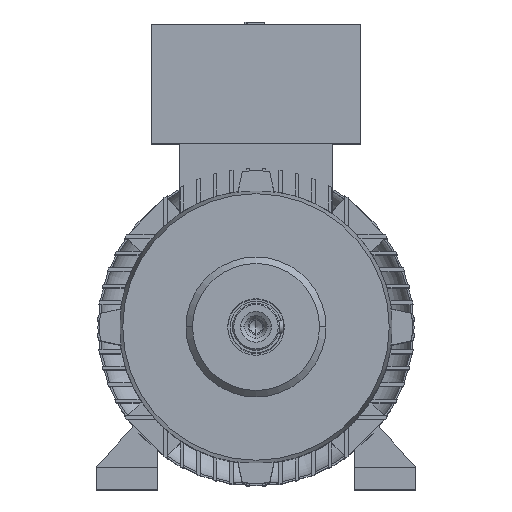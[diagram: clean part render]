
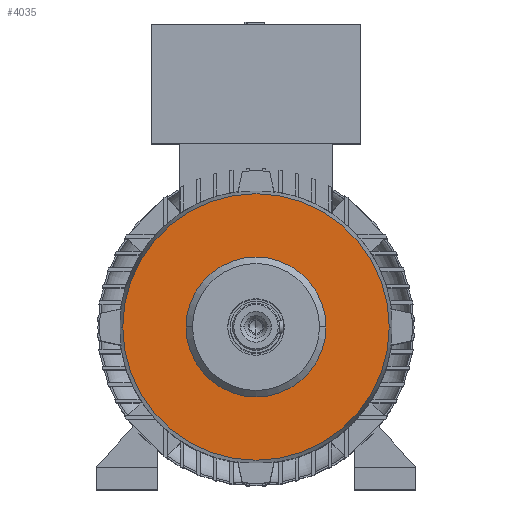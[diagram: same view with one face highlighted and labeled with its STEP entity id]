
A CAD part, top view. The second image highlights one B-rep face of the part: STEP entity #4035.
In plain terms, the highlighted planar face has unit normal (0, 0, 1).
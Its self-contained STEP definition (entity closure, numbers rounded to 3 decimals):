
#214 = VERTEX_POINT ( 'NONE', #7794 ) ;
#569 = ORIENTED_EDGE ( 'NONE', *, *, #4385, .F. ) ;
#1160 = FACE_OUTER_BOUND ( 'NONE', #1860, .T. ) ;
#1704 = VERTEX_POINT ( 'NONE', #6444 ) ;
#1860 = EDGE_LOOP ( 'NONE', ( #569, #4934 ) ) ;
#2179 = EDGE_CURVE ( 'NONE', #17875, #1704, #7360, .T. ) ;
#2653 = AXIS2_PLACEMENT_3D ( 'NONE', #6954, #5426, #21236 ) ;
#2878 = CIRCLE ( 'NONE', #16670, 108.312 ) ;
#3024 = CARTESIAN_POINT ( 'NONE',  ( 0., 0., 170.72 ) ) ;
#3751 = CARTESIAN_POINT ( 'NONE',  ( 0., 0., 170.72 ) ) ;
#4035 = ADVANCED_FACE ( 'NONE', ( #1160, #5353 ), #7540, .F. ) ;
#4385 = EDGE_CURVE ( 'NONE', #9769, #214, #9472, .T. ) ;
#4789 = DIRECTION ( 'NONE',  ( -1., 0., 0. ) ) ;
#4934 = ORIENTED_EDGE ( 'NONE', *, *, #21369, .F. ) ;
#5167 = EDGE_LOOP ( 'NONE', ( #22354, #13196 ) ) ;
#5353 = FACE_BOUND ( 'NONE', #5167, .T. ) ;
#5426 = DIRECTION ( 'NONE',  ( 0., 0., 1. ) ) ;
#5897 = CIRCLE ( 'NONE', #21844, 56.88 ) ;
#6444 = CARTESIAN_POINT ( 'NONE',  ( 56.88, 0., 170.72 ) ) ;
#6954 = CARTESIAN_POINT ( 'NONE',  ( 0., 0., 170.72 ) ) ;
#7118 = CARTESIAN_POINT ( 'NONE',  ( -56.88, 0., 170.72 ) ) ;
#7360 = CIRCLE ( 'NONE', #2653, 56.88 ) ;
#7458 = CARTESIAN_POINT ( 'NONE',  ( 0., 108.312, 170.72 ) ) ;
#7540 = PLANE ( 'NONE',  #9204 ) ;
#7794 = CARTESIAN_POINT ( 'NONE',  ( 108.312, 0., 170.72 ) ) ;
#8501 = DIRECTION ( 'NONE',  ( 0., 0., 1. ) ) ;
#9079 = DIRECTION ( 'NONE',  ( 0., 0., -1. ) ) ;
#9204 = AXIS2_PLACEMENT_3D ( 'NONE', #7458, #13328, #19993 ) ;
#9472 = CIRCLE ( 'NONE', #16986, 108.312 ) ;
#9769 = VERTEX_POINT ( 'NONE', #22293 ) ;
#13196 = ORIENTED_EDGE ( 'NONE', *, *, #22901, .F. ) ;
#13328 = DIRECTION ( 'NONE',  ( 0., 0., -1. ) ) ;
#14155 = DIRECTION ( 'NONE',  ( -1., 0., 0. ) ) ;
#16670 = AXIS2_PLACEMENT_3D ( 'NONE', #3024, #17098, #20681 ) ;
#16986 = AXIS2_PLACEMENT_3D ( 'NONE', #3751, #9079, #14155 ) ;
#17098 = DIRECTION ( 'NONE',  ( 0., 0., -1. ) ) ;
#17385 = CARTESIAN_POINT ( 'NONE',  ( 0., 0., 170.72 ) ) ;
#17875 = VERTEX_POINT ( 'NONE', #7118 ) ;
#19993 = DIRECTION ( 'NONE',  ( -1., 0., 0. ) ) ;
#20681 = DIRECTION ( 'NONE',  ( -1., 0., 0. ) ) ;
#21236 = DIRECTION ( 'NONE',  ( -1., 0., 0. ) ) ;
#21369 = EDGE_CURVE ( 'NONE', #214, #9769, #2878, .T. ) ;
#21844 = AXIS2_PLACEMENT_3D ( 'NONE', #17385, #8501, #4789 ) ;
#22293 = CARTESIAN_POINT ( 'NONE',  ( -108.312, 0., 170.72 ) ) ;
#22354 = ORIENTED_EDGE ( 'NONE', *, *, #2179, .F. ) ;
#22901 = EDGE_CURVE ( 'NONE', #1704, #17875, #5897, .T. ) ;
